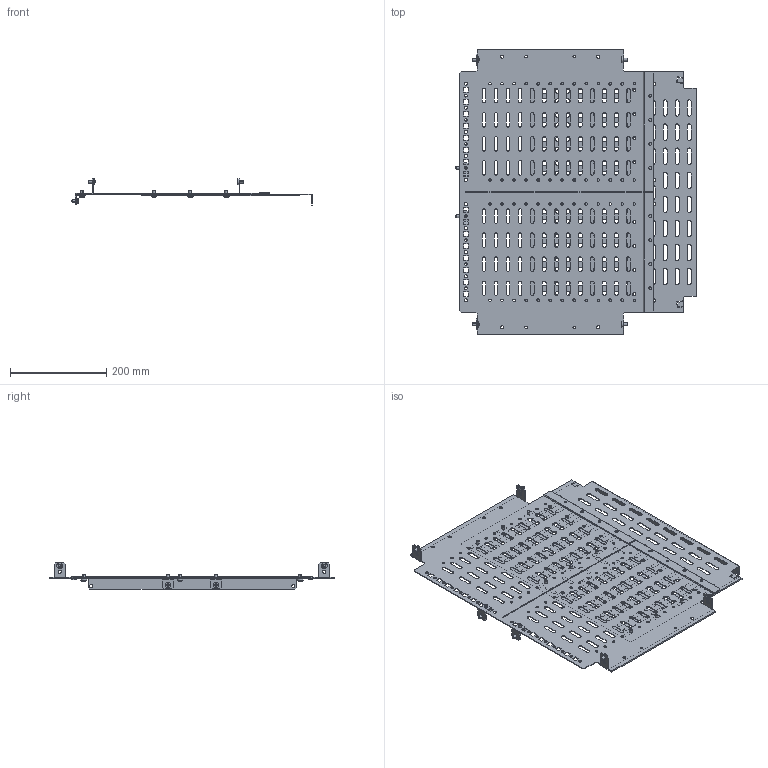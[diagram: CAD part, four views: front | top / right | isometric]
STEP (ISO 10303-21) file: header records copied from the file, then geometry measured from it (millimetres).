
FILE_DESCRIPTION (( 'STEP AP214' ), '1' );
FILE_NAME ('FO-00-SWMP-060-040 Ïåðåãîðîäêà ñåêöèîíèðîâàíèÿ ìîíòàæíîé ïàíåëè çàäíÿÿ ãîðèçîíòàëüíàÿ 600õ400 ìì â øêàô ãëóáèíîé 800 ìì.STEP', '2025-08-13T11:23:13', ( '' ), ( '' ), 'SwSTEP 2.0', 'SolidWorks 2023', '' );
FILE_SCHEMA (( 'AUTOMOTIVE_DESIGN' ));
Length unit declared in the file: millimetre
Products named in the file (6): Болты 600; Перегородка секционирования монтажной панели задняя горизонтальная 600х400 мм; Уголок; FO-00-SWMP-060-040 Перегородка секционирования монтажной панели задняя горизонтальная 600х400 мм в шкаф глубиной 800 мм; Перегородка секционирования гориз. 600x400; Перегородка секц. монт. панели задняя
Assembly tree (8 placements, depth 3):
  FO-00-SWMP-060-040 Перегородка секционирования монтажной панели задняя горизонтальная 600х400 мм в шкаф глубиной 800 мм
    Перегородка секционирования монтажной панели задняя горизонтальная 600х400 мм
      Перегородка секционирования гориз. 600x400
      Уголок  x2
    Перегородка секц. монт. панели задняя
    Болты 600  x3
Bounding box: 500.5 x 593.6 x 55.5 mm (x, y, z)
Volume: 567103.8 mm3; surface area: 766549.4 mm2
Topology: 13 solids, 13 shells, 2157 faces, 6165 edges, 4070 vertices
Faces by surface type: cylinder 1151, plane 886, cone 56, torus 52, sphere 12
Entity records: 65122 total; most frequent: CARTESIAN_POINT 11417, DIRECTION 11242, ORIENTED_EDGE 11040, EDGE_CURVE 5520, AXIS2_PLACEMENT_3D 3905, VERTEX_POINT 3660, LINE 3432, VECTOR 3432
